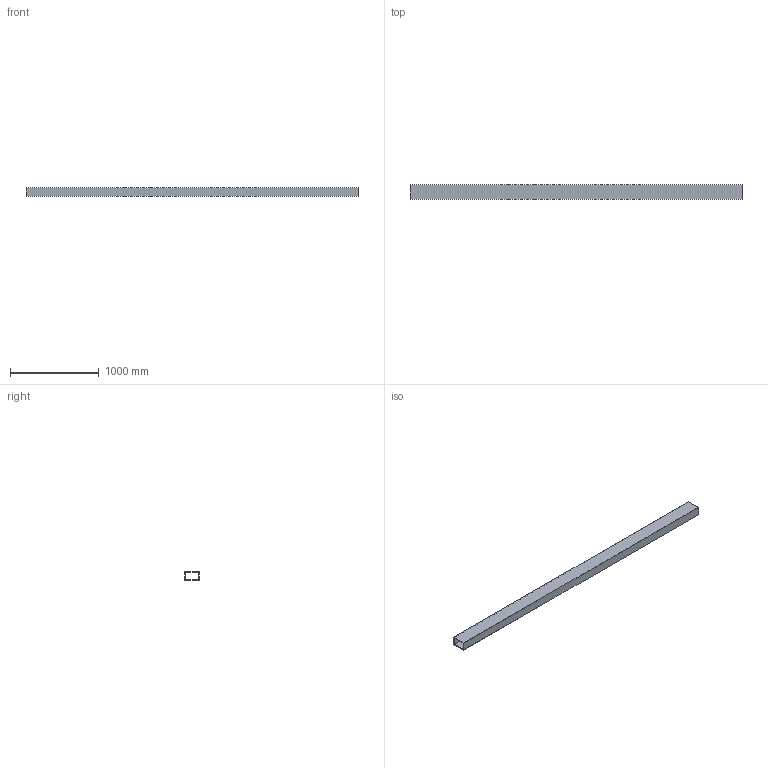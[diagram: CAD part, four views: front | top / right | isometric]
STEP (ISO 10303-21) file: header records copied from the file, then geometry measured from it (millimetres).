
FILE_DESCRIPTION(('Open CASCADE Model'),'2;1');
FILE_NAME('Open CASCADE Shape Model','2026-09-19T12:55:23',('Author'),( 'Open CASCADE'),'Open CASCADE STEP processor 7.9','Open CASCADE 7.9' ,'Unknown');
FILE_SCHEMA(('AUTOMOTIVE_DESIGN { 1 0 10303 214 1 1 1 1 }'));
Length unit declared in the file: millimetre
Products named in the file (1): Open CASCADE STEP translator 7.9 420
Bounding box: 3744 x 160 x 100 mm (x, y, z)
Volume: 14616576 mm3; surface area: 3661952 mm2
Topology: 1 solids, 1 shells, 10 faces, 24 edges, 16 vertices
Faces by surface type: plane 10
Entity records: 614 total; most frequent: CARTESIAN_POINT 99, DIRECTION 94, LINE 72, VECTOR 72, ORIENTED_EDGE 48, PCURVE 48, DEFINITIONAL_REPRESENTATION 48, EDGE_CURVE 24
